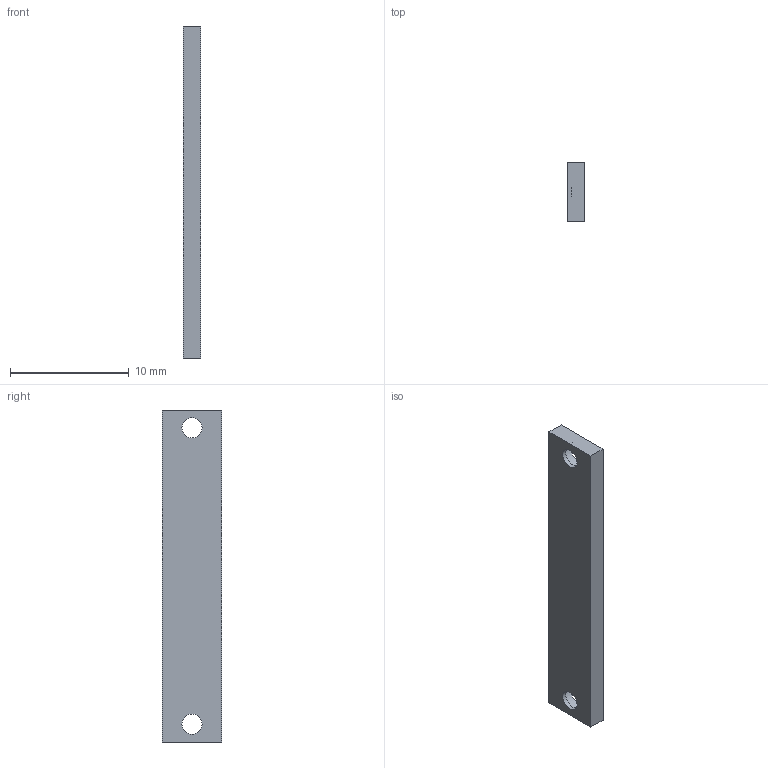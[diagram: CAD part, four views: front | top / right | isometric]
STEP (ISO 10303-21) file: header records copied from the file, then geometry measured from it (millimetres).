
FILE_DESCRIPTION(('Open CASCADE Model'),'2;1');
FILE_NAME('PTT_RIGID_DRIVE_BRIDGE','2026-09-06T11:49:22',('Author'),( 'Open CASCADE'),'Open CASCADE STEP processor 7.8','build123d', 'Unknown');
FILE_SCHEMA(('AUTOMOTIVE_DESIGN { 1 0 10303 214 1 1 1 1 }'));
Length unit declared in the file: millimetre
Products named in the file (1): PTT_RIGID_DRIVE_BRIDGE
Bounding box: 1.45 x 5 x 28 mm (x, y, z)
Volume: 187 mm3; surface area: 390.3 mm2
Topology: 1 solids, 1 shells, 12 faces, 24 edges, 16 vertices
Faces by surface type: plane 8, cylinder 4
Full cylindrical faces by diameter (mm): 1.7 x2, 2.9 x2
Entity records: 646 total; most frequent: DIRECTION 106, CARTESIAN_POINT 101, LINE 56, VECTOR 56, ORIENTED_EDGE 48, PCURVE 48, DEFINITIONAL_REPRESENTATION 48, EDGE_CURVE 24
